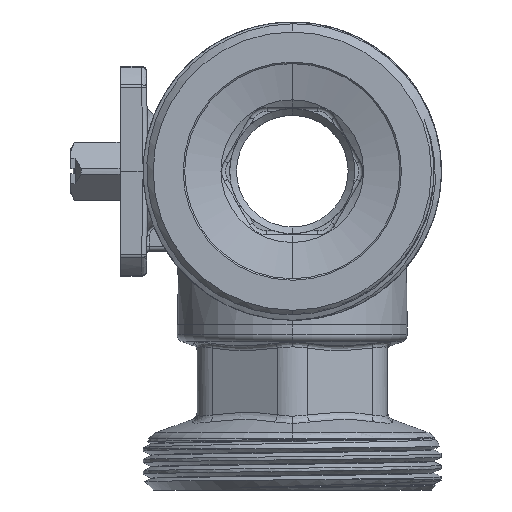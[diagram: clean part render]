
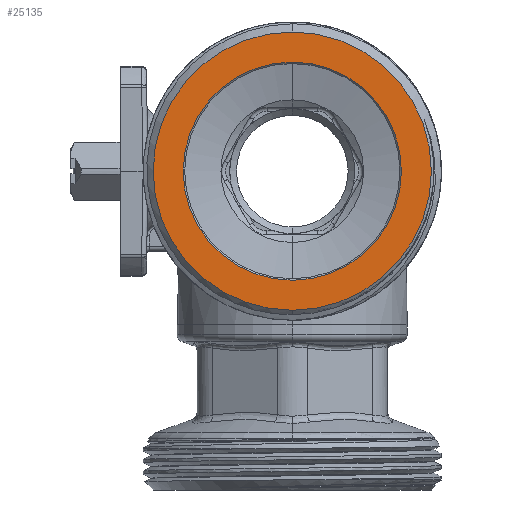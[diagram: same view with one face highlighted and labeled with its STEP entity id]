
A CAD part, left-side view. The second image highlights one B-rep face of the part: STEP entity #25135.
In plain terms, the highlighted planar face has unit normal (-1, 0, 0).
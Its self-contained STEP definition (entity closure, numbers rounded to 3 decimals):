
#1146=CARTESIAN_POINT('',(-57.,0.,0.));
#1147=DIRECTION('',(1.,0.,0.));
#1148=DIRECTION('',(0.,0.,1.));
#1149=AXIS2_PLACEMENT_3D('',#1146,#1147,#1148);
#1907=CARTESIAN_POINT('',(-57.,0.,0.));
#1908=DIRECTION('',(-1.,0.,0.));
#1909=DIRECTION('',(0.,0.,1.));
#1910=AXIS2_PLACEMENT_3D('',#1907,#1908,#1909);
#1916=CARTESIAN_POINT('',(-57.,0.,0.));
#1917=DIRECTION('',(1.,0.,0.));
#1918=DIRECTION('',(0.,0.,1.));
#1919=AXIS2_PLACEMENT_3D('',#1916,#1917,#1918);
#1921=CARTESIAN_POINT('',(-57.,0.,0.));
#1922=DIRECTION('',(-1.,0.,0.));
#1923=DIRECTION('',(0.,0.,1.));
#1924=AXIS2_PLACEMENT_3D('',#1921,#1922,#1923);
#22615=CARTESIAN_POINT('',(-57.,-0.01,21.8));
#22616=VERTEX_POINT('',#22615);
#22623=CARTESIAN_POINT('',(-57.,0.01,-21.8));
#22624=VERTEX_POINT('',#22623);
#22629=CARTESIAN_POINT('',(-57.,-0.013,27.8));
#22630=CARTESIAN_POINT('',(-57.,0.013,-27.8));
#22631=VERTEX_POINT('',#22629);
#22632=VERTEX_POINT('',#22630);
#25120=CARTESIAN_POINT('',(-57.,0.,0.));
#25121=DIRECTION('',(1.,0.,0.));
#25122=DIRECTION('',(0.,0.,-1.));
#25123=AXIS2_PLACEMENT_3D('',#25120,#25121,#25122);
#25124=PLANE('',#25123);
#25125=ORIENTED_EDGE('',*,*,#25114,.F.);
#25126=ORIENTED_EDGE('',*,*,#24321,.T.);
#25127=EDGE_LOOP('',(#25125,#25126));
#25128=FACE_OUTER_BOUND('',#25127,.F.);
#25130=ORIENTED_EDGE('',*,*,#25129,.F.);
#25132=ORIENTED_EDGE('',*,*,#25131,.T.);
#25133=EDGE_LOOP('',(#25130,#25132));
#25134=FACE_BOUND('',#25133,.F.);
#1150=CIRCLE('',#1149,27.8);
#1911=CIRCLE('',#1910,27.8);
#1920=CIRCLE('',#1919,21.8);
#1925=CIRCLE('',#1924,21.8);
#24321=EDGE_CURVE('',#22631,#22632,#1150,.T.);
#25114=EDGE_CURVE('',#22631,#22632,#1911,.T.);
#25129=EDGE_CURVE('',#22616,#22624,#1920,.T.);
#25131=EDGE_CURVE('',#22616,#22624,#1925,.T.);
#25135=ADVANCED_FACE('',(#25128,#25134),#25124,.F.);
